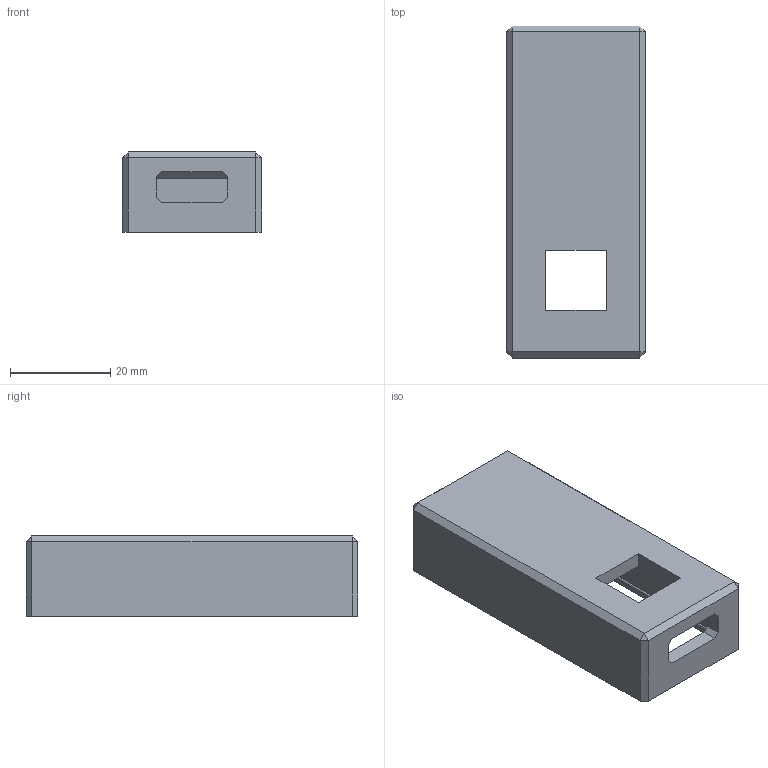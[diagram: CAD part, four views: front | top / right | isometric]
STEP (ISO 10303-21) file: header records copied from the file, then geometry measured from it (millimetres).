
FILE_DESCRIPTION(('FreeCAD Model'),'2;1');
FILE_NAME('Open CASCADE Shape Model','2025-06-07T00:09:06',(''),(''), 'Open CASCADE STEP processor 7.8','FreeCAD','Unknown');
FILE_SCHEMA(('AUTOMOTIVE_DESIGN { 1 0 10303 214 1 1 1 1 }'));
Length unit declared in the file: millimetre
Products named in the file (1): top
Bounding box: 27.75 x 66.25 x 16 mm (x, y, z)
Volume: 11636 mm3; surface area: 8478.9 mm2
Topology: 1 solids, 1 shells, 72 faces, 175 edges, 110 vertices
Faces by surface type: plane 64, cylinder 8
Full cylindrical faces by diameter (mm): 1.8 x4
Entity records: 2089 total; most frequent: CARTESIAN_POINT 358, ORIENTED_EDGE 350, DIRECTION 341, EDGE_CURVE 175, LINE 155, VECTOR 155, VERTEX_POINT 110, AXIS2_PLACEMENT_3D 93
